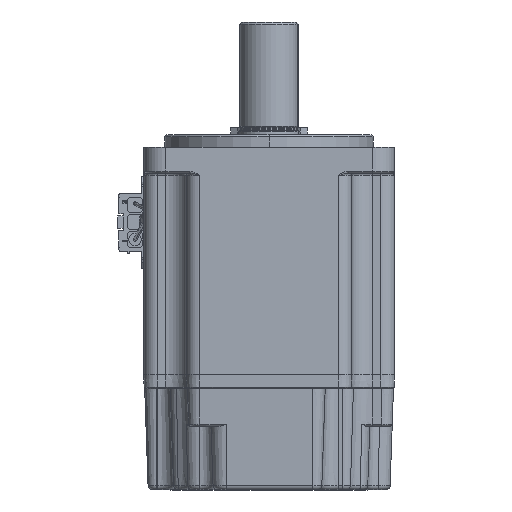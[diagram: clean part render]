
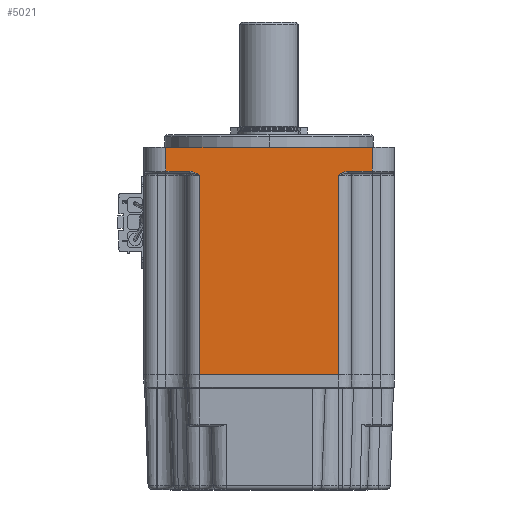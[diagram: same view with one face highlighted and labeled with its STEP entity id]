
A CAD part, front view. The second image highlights one B-rep face of the part: STEP entity #5021.
In plain terms, the highlighted planar face has unit normal (0, -1, 0).
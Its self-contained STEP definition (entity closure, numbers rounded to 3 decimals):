
#1057 = DIRECTION ( 'NONE',  ( 0., 1., 0. ) ) ;
#1065 = CARTESIAN_POINT ( 'NONE',  ( 16.549, -30., -10. ) ) ;
#2031 = VERTEX_POINT ( 'NONE', #23244 ) ;
#3398 = DIRECTION ( 'NONE',  ( 1., 0., 0. ) ) ;
#3437 = VECTOR ( 'NONE', #16970, 1000. ) ;
#3756 = EDGE_CURVE ( 'NONE', #19094, #27112, #21967, .T. ) ;
#3820 = ORIENTED_EDGE ( 'NONE', *, *, #15224, .T. ) ;
#3980 = CARTESIAN_POINT ( 'NONE',  ( -16.549, -30., -10. ) ) ;
#4447 = ORIENTED_EDGE ( 'NONE', *, *, #18232, .F. ) ;
#5021 = ADVANCED_FACE ( 'NONE', ( #24076 ), #24662, .F. ) ;
#5689 = VERTEX_POINT ( 'NONE', #18528 ) ;
#5886 = VERTEX_POINT ( 'NONE', #15938 ) ;
#5981 = VERTEX_POINT ( 'NONE', #14556 ) ;
#6022 = VECTOR ( 'NONE', #7266, 1000. ) ;
#6303 = CARTESIAN_POINT ( 'NONE',  ( -16.549, -30., -9. ) ) ;
#6672 = CARTESIAN_POINT ( 'NONE',  ( -18.846, -30., -9. ) ) ;
#7266 = DIRECTION ( 'NONE',  ( 0., 0., 1. ) ) ;
#7724 = EDGE_CURVE ( 'NONE', #29413, #5689, #14582, .T. ) ;
#10710 = CARTESIAN_POINT ( 'NONE',  ( 19.079, -30., -9. ) ) ;
#10901 = ORIENTED_EDGE ( 'NONE', *, *, #13998, .T. ) ;
#11044 = EDGE_CURVE ( 'NONE', #2031, #5886, #21931, .T. ) ;
#11551 = EDGE_CURVE ( 'NONE', #15384, #5886, #23910, .T. ) ;
#12071 = EDGE_CURVE ( 'NONE', #2031, #36459, #19363, .T. ) ;
#12376 = VECTOR ( 'NONE', #15916, 1000. ) ;
#12855 = DIRECTION ( 'NONE',  ( -1., 0., 0. ) ) ;
#12859 = CARTESIAN_POINT ( 'NONE',  ( 17.332, -30., -9.522 ) ) ;
#13342 = VECTOR ( 'NONE', #29371, 1000. ) ;
#13998 = EDGE_CURVE ( 'NONE', #5981, #29413, #24889, .T. ) ;
#14071 = LINE ( 'NONE', #26070, #3437 ) ;
#14556 = CARTESIAN_POINT ( 'NONE',  ( -19.079, -30., -9. ) ) ;
#14582 = LINE ( 'NONE', #26964, #16144 ) ;
#15224 = EDGE_CURVE ( 'NONE', #27112, #15384, #30324, .T. ) ;
#15384 = VERTEX_POINT ( 'NONE', #10710 ) ;
#15570 = CARTESIAN_POINT ( 'NONE',  ( 17.957, -30., -9.239 ) ) ;
#15916 = DIRECTION ( 'NONE',  ( 0., 0., -1. ) ) ;
#15938 = CARTESIAN_POINT ( 'NONE',  ( 24.7, -30., -9. ) ) ;
#15960 = CARTESIAN_POINT ( 'NONE',  ( 16.939, -30., -9.762 ) ) ;
#16144 = VECTOR ( 'NONE', #38136, 1000. ) ;
#16573 = ORIENTED_EDGE ( 'NONE', *, *, #3756, .T. ) ;
#16655 = CARTESIAN_POINT ( 'NONE',  ( 24.7, -30., 82.153 ) ) ;
#16970 = DIRECTION ( 'NONE',  ( 0., 0., -1. ) ) ;
#17112 = ORIENTED_EDGE ( 'NONE', *, *, #18107, .T. ) ;
#17730 = CARTESIAN_POINT ( 'NONE',  ( 24.7, -30., -57.8 ) ) ;
#18107 = EDGE_CURVE ( 'NONE', #36459, #18927, #14071, .T. ) ;
#18232 = EDGE_CURVE ( 'NONE', #19094, #5689, #26261, .T. ) ;
#18474 = CARTESIAN_POINT ( 'NONE',  ( -18.619, -30., -9.037 ) ) ;
#18528 = CARTESIAN_POINT ( 'NONE',  ( -16.549, -30., -57.8 ) ) ;
#18867 = CARTESIAN_POINT ( 'NONE',  ( 18.619, -30., -9.037 ) ) ;
#18927 = VERTEX_POINT ( 'NONE', #34613 ) ;
#19094 = VERTEX_POINT ( 'NONE', #32874 ) ;
#19359 = CARTESIAN_POINT ( 'NONE',  ( -16.941, -30., -9.761 ) ) ;
#19363 = LINE ( 'NONE', #19750, #21719 ) ;
#19750 = CARTESIAN_POINT ( 'NONE',  ( 24.7, -30., -3.3 ) ) ;
#21400 = CARTESIAN_POINT ( 'NONE',  ( -19.079, -30., -9. ) ) ;
#21719 = VECTOR ( 'NONE', #25367, 1000. ) ;
#21781 = CARTESIAN_POINT ( 'NONE',  ( 24.7, -30., 82.153 ) ) ;
#21786 = CARTESIAN_POINT ( 'NONE',  ( 19.079, -30., -9. ) ) ;
#21931 = LINE ( 'NONE', #16655, #12376 ) ;
#21967 = LINE ( 'NONE', #33740, #6022 ) ;
#22471 = CARTESIAN_POINT ( 'NONE',  ( -18.174, -30., -9.156 ) ) ;
#22729 = ORIENTED_EDGE ( 'NONE', *, *, #7724, .T. ) ;
#23244 = CARTESIAN_POINT ( 'NONE',  ( 24.7, -30., -3.3 ) ) ;
#23340 = CARTESIAN_POINT ( 'NONE',  ( 24.7, -30., -9. ) ) ;
#23500 = AXIS2_PLACEMENT_3D ( 'NONE', #21781, #1057, #12855 ) ;
#23910 = LINE ( 'NONE', #23340, #33472 ) ;
#24076 = FACE_OUTER_BOUND ( 'NONE', #30983, .T. ) ;
#24662 = PLANE ( 'NONE',  #23500 ) ;
#24889 = B_SPLINE_CURVE_WITH_KNOTS ( 'NONE', 3,
 ( #21400, #6672, #18474, #22471, #30493, #30103, #19359, #3980 ),
 .UNSPECIFIED., .F., .F.,
 ( 4, 2, 2, 4 ),
 ( 0., 0.001, 0.001, 0.003 ),
 .UNSPECIFIED. ) ;
#25367 = DIRECTION ( 'NONE',  ( -1., 0., 0. ) ) ;
#25641 = ORIENTED_EDGE ( 'NONE', *, *, #11044, .F. ) ;
#26070 = CARTESIAN_POINT ( 'NONE',  ( -24.7, -30., 82.153 ) ) ;
#26261 = LINE ( 'NONE', #17730, #13342 ) ;
#26291 = ORIENTED_EDGE ( 'NONE', *, *, #26713, .T. ) ;
#26713 = EDGE_CURVE ( 'NONE', #18927, #5981, #32596, .T. ) ;
#26964 = CARTESIAN_POINT ( 'NONE',  ( -16.549, -30., 82.153 ) ) ;
#27112 = VERTEX_POINT ( 'NONE', #30065 ) ;
#27389 = CARTESIAN_POINT ( 'NONE',  ( 18.846, -30., -9. ) ) ;
#29346 = ORIENTED_EDGE ( 'NONE', *, *, #12071, .T. ) ;
#29371 = DIRECTION ( 'NONE',  ( -1., 0., 0. ) ) ;
#29413 = VERTEX_POINT ( 'NONE', #29897 ) ;
#29897 = CARTESIAN_POINT ( 'NONE',  ( -16.549, -30., -10. ) ) ;
#30065 = CARTESIAN_POINT ( 'NONE',  ( 16.549, -30., -10. ) ) ;
#30103 = CARTESIAN_POINT ( 'NONE',  ( -17.332, -30., -9.522 ) ) ;
#30324 = B_SPLINE_CURVE_WITH_KNOTS ( 'NONE', 3,
 ( #1065, #15960, #12859, #15570, #36446, #18867, #27389, #21786 ),
 .UNSPECIFIED., .F., .F.,
 ( 4, 2, 2, 4 ),
 ( 0., 0.001, 0.002, 0.003 ),
 .UNSPECIFIED. ) ;
#30493 = CARTESIAN_POINT ( 'NONE',  ( -17.957, -30., -9.239 ) ) ;
#30983 = EDGE_LOOP ( 'NONE', ( #4447, #16573, #3820, #38132, #25641, #29346, #17112, #26291, #10901, #22729 ) ) ;
#32596 = LINE ( 'NONE', #6303, #34827 ) ;
#32874 = CARTESIAN_POINT ( 'NONE',  ( 16.549, -30., -57.8 ) ) ;
#33458 = CARTESIAN_POINT ( 'NONE',  ( -24.7, -30., -3.3 ) ) ;
#33472 = VECTOR ( 'NONE', #35683, 1000. ) ;
#33740 = CARTESIAN_POINT ( 'NONE',  ( 16.549, -30., 82.153 ) ) ;
#34613 = CARTESIAN_POINT ( 'NONE',  ( -24.7, -30., -9. ) ) ;
#34827 = VECTOR ( 'NONE', #3398, 1000. ) ;
#35683 = DIRECTION ( 'NONE',  ( 1., 0., 0. ) ) ;
#36446 = CARTESIAN_POINT ( 'NONE',  ( 18.174, -30., -9.156 ) ) ;
#36459 = VERTEX_POINT ( 'NONE', #33458 ) ;
#38132 = ORIENTED_EDGE ( 'NONE', *, *, #11551, .T. ) ;
#38136 = DIRECTION ( 'NONE',  ( 0., 0., -1. ) ) ;
